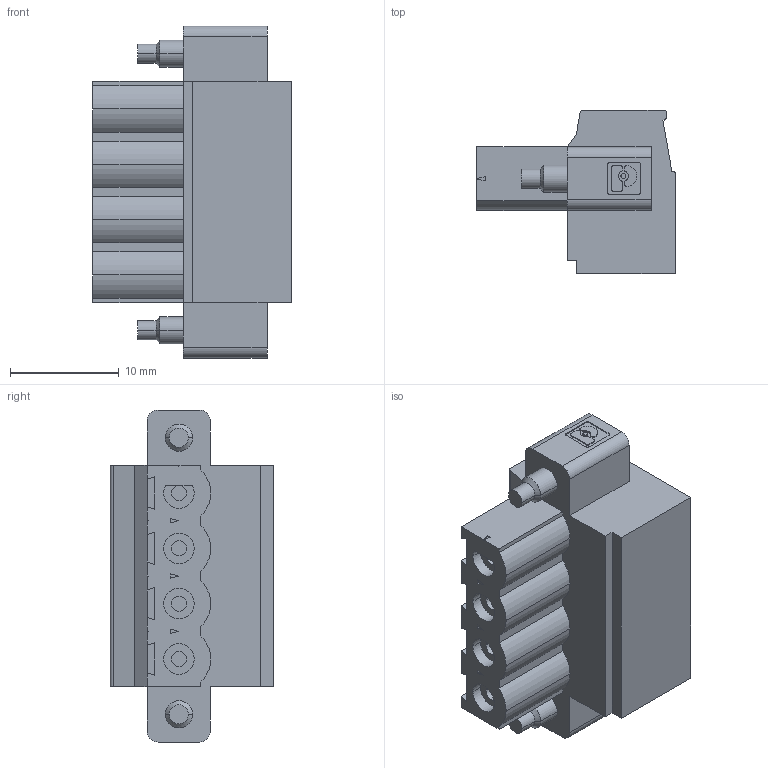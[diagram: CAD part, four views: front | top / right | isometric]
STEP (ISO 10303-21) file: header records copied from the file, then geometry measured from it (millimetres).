
FILE_DESCRIPTION((''),'2;1');
FILE_NAME('CONN_CONT_4_POS_CMBCN','2007-01-25T',('chrisj'),(''),'PRO/ENGINEER BY PARAMETRIC TECHNOLOGY CORPORATION, 2006080','PRO/ENGINEER BY PARAMETRIC TECHNOLOGY CORPORATION, 2006080','');
FILE_SCHEMA(('AUTOMOTIVE_DESIGN_CC2 { 1 2 10303 214 -1 1 5 2 }'));
Length unit declared in the file: inch
Products named in the file (1): CONN_CONT_4_POS_CMBCN
Bounding box: 18.2 x 15 x 30.48 mm (x, y, z)
Volume: 3821.5 mm3; surface area: 2656.6 mm2
Topology: 1 solids, 1 shells, 309 faces, 782 edges, 511 vertices
Faces by surface type: plane 205, cylinder 94, torus 6, cone 4
Entity records: 9355 total; most frequent: DIRECTION 1649, CARTESIAN_POINT 1624, ORIENTED_EDGE 1564, EDGE_CURVE 782, AXIS2_PLACEMENT_3D 566, VECTOR 517, LINE 517, VERTEX_POINT 511
